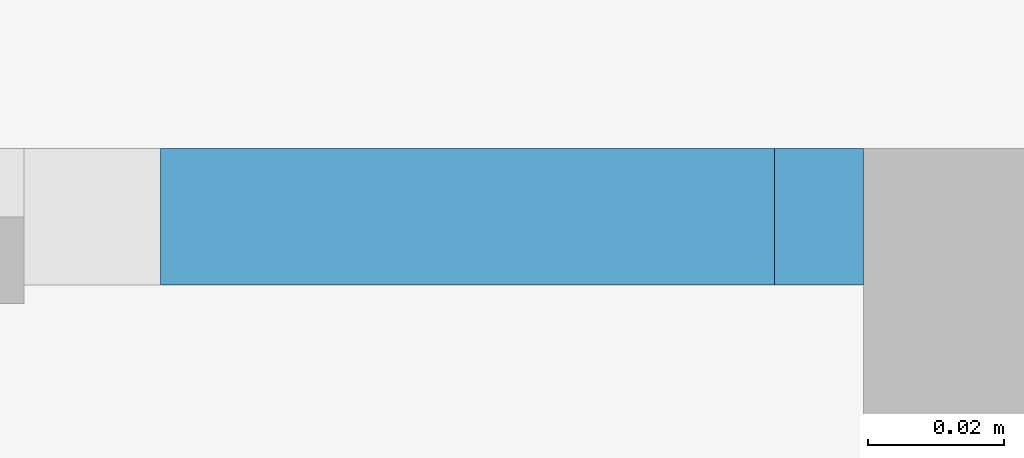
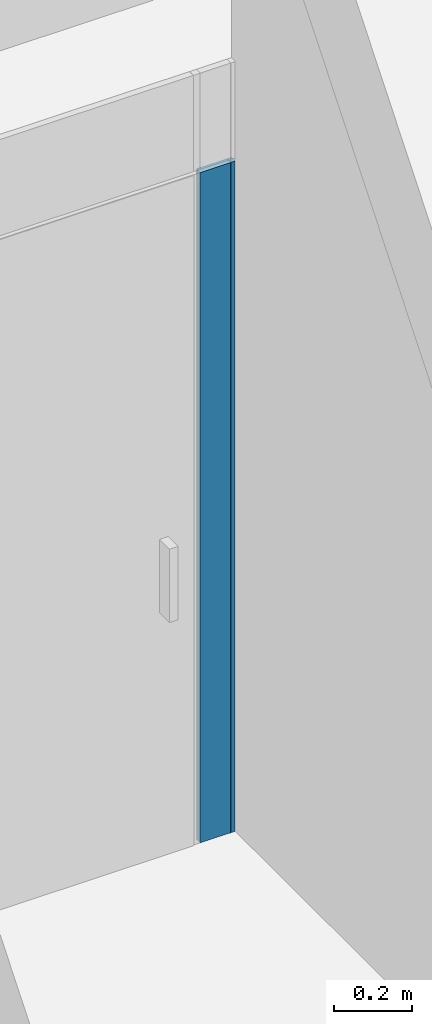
# One storey, part 19 of 66: 2 plates, 1 element without a shape of its own.
"""IFC2X3 building model written with IfcOpenShell, lengths in millimetres."""

from ifc_helpers import new_model, entity, si_unit, converted_unit, derived_unit, direction, frame, origin, origin_2d_with_axis, place, context, subcontext, project, spatial, rectangle, extrude, source, transform, mapped, material, layer, layer_set, layer_usage, type_object, type_shapes, element, aggregate, save


model = new_model("IFC2X3")

# Units and contexts
model_context = context("Model", 3, precision=0.01, world=origin(), true_north=direction((6.12303176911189e-17, 1.0)))
body_context = subcontext(model_context, "Body", "Model", "MODEL_VIEW")
ifc_project = project(units=[si_unit("LENGTHUNIT", "METRE", prefix="MILLI"), si_unit("AREAUNIT", "SQUARE_METRE"), si_unit("VOLUMEUNIT", "CUBIC_METRE"), converted_unit("PLANEANGLEUNIT", "DEGREE", entity("IfcRatioMeasure", 0.0174532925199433), si_unit("PLANEANGLEUNIT", "RADIAN"), dimensions=[0, 0, 0, 0, 0, 0, 0]), si_unit("MASSUNIT", "GRAM", prefix="KILO"), derived_unit("MASSDENSITYUNIT", [(si_unit("MASSUNIT", "GRAM", prefix="KILO"), 1), (si_unit("LENGTHUNIT", "METRE"), -3)]), si_unit("TIMEUNIT", "SECOND"), si_unit("FREQUENCYUNIT", "HERTZ"), si_unit("THERMODYNAMICTEMPERATUREUNIT", "DEGREE_CELSIUS"), derived_unit("THERMALTRANSMITTANCEUNIT", [(si_unit("MASSUNIT", "GRAM", prefix="KILO"), 1), (si_unit("THERMODYNAMICTEMPERATUREUNIT", "KELVIN"), -1), (si_unit("TIMEUNIT", "SECOND"), -3)]), derived_unit("VOLUMETRICFLOWRATEUNIT", [(si_unit("LENGTHUNIT", "METRE"), 3), (si_unit("TIMEUNIT", "SECOND"), -1)]), si_unit("ELECTRICCURRENTUNIT", "AMPERE"), si_unit("ELECTRICVOLTAGEUNIT", "VOLT"), si_unit("POWERUNIT", "WATT"), si_unit("FORCEUNIT", "NEWTON", prefix="KILO"), si_unit("ILLUMINANCEUNIT", "LUX"), si_unit("LUMINOUSFLUXUNIT", "LUMEN"), si_unit("LUMINOUSINTENSITYUNIT", "CANDELA"), derived_unit("USERDEFINED", [(si_unit("MASSUNIT", "GRAM", prefix="KILO"), -1), (si_unit("LENGTHUNIT", "METRE"), -2), (si_unit("TIMEUNIT", "SECOND"), 3), (si_unit("LUMINOUSFLUXUNIT", "LUMEN"), 1)]), derived_unit("LINEARVELOCITYUNIT", [(si_unit("LENGTHUNIT", "METRE"), 1), (si_unit("TIMEUNIT", "SECOND"), -1)]), si_unit("PRESSUREUNIT", "PASCAL"), derived_unit("USERDEFINED", [(si_unit("LENGTHUNIT", "METRE"), -2), (si_unit("MASSUNIT", "GRAM", prefix="KILO"), 1), (si_unit("TIMEUNIT", "SECOND"), -2)])], contexts=[model_context])

# Site, building, storey
site_placement = place(None, frame((-151.875543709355, 2715.0, 0.0)))
site = spatial("IfcSite", under=ifc_project, at=site_placement, Name="Surface", CompositionType="ELEMENT")
building_placement = place(site_placement, origin())
building = spatial("IfcBuilding", under=site, at=building_placement, CompositionType="ELEMENT")
storey_placement = place(building_placement, frame((0.0, 0.0, 3350.0)))
storey = spatial("IfcBuildingStorey", under=building, at=storey_placement, Name="2 korrus", CompositionType="ELEMENT", Elevation=3350.00000000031)

# Curtain wall, plates
curtain_wall_type = type_object("IfcCurtainWallType", Name="Curtain Wall:Klaassein KLS-10", PredefinedType="NOTDEFINED")
curtain_wall_placement = place(storey_placement, frame((0.0, 0.0, -3350.0)))
curtain_wall = element("IfcCurtainWall", 1, at=curtain_wall_placement, inside=storey, type_object=curtain_wall_type, Name="Curtain Wall:Klaassein KLS-10", ObjectType="Curtain Wall:Klaassein KLS-10")
ifc_material = material(Name="<Unnamed>")
ifc_layer = layer(ifc_material, 20.0)
ifc_layer_set = layer_set([ifc_layer], Name="Curtain Wall:Klaassein KLS-01")
ifc_layer_usage_1 = layer_usage(ifc_layer_set, "AXIS3", "POSITIVE", 0.0)
plate_type_1 = type_object("IfcPlateType", Name="Glazed", PredefinedType="CURTAIN_PANEL", material=ifc_layer_set)
shared_shape_1 = source(origin(), body_context, "Body", "SweptSolid", [
    extrude(rectangle(XDim=20.0, YDim=89.999999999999, at=origin_2d_with_axis()), frame((0.0, 0.0, 0.0), z_axis=(0.0, 0.0, 1.0), x_axis=(0.0, 1.0, 0.0)), (0.0, 0.0, 1.0), 2090.0),
])
type_shapes(plate_type_1, [shared_shape_1])
plate_1_placement = place(curtain_wall_placement, frame((6907.81503480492, 8850.0, 3350.0), z_axis=(0.0, 0.0, 1.0), x_axis=(-1.0, 0.0, 0.0)))
plate_1 = element("IfcPlate", 2, at=plate_1_placement, type_object=plate_type_1, material=ifc_layer_usage_1, Name="System Panel:Glazed", ObjectType="Glazed", context=body_context, shape_type="MappedRepresentation", body=[
    mapped(shared_shape_1, transform((0.0, 0.0, 0.0), scale=1.0)),
])
ifc_layer_usage_2 = layer_usage(ifc_layer_set, "AXIS3", "POSITIVE", 0.0)
plate_type_2 = type_object("IfcPlateType", Name="Glazed", PredefinedType="CURTAIN_PANEL", material=ifc_layer_set)
shared_shape_2 = source(origin(), body_context, "Body", "SweptSolid", [
    extrude(rectangle(XDim=20.0, YDim=13.0094386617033, at=origin_2d_with_axis()), frame((0.0, 0.0, 0.0), z_axis=(0.0, 0.0, 1.0), x_axis=(0.0, 1.0, 0.0)), (0.0, 0.0, 1.0), 2090.0),
])
type_shapes(plate_type_2, [shared_shape_2])
plate_2_placement = place(curtain_wall_placement, frame((6959.31975413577, 8850.0, 3350.0), z_axis=(0.0, 0.0, 1.0), x_axis=(-1.0, 0.0, 0.0)))
plate_2 = element("IfcPlate", 3, at=plate_2_placement, type_object=plate_type_2, material=ifc_layer_usage_2, Name="System Panel:Glazed", ObjectType="Glazed", context=body_context, shape_type="MappedRepresentation", body=[
    mapped(shared_shape_2, transform((0.0, 0.0, 0.0), scale=1.0)),
])
aggregate(curtain_wall, [plate_2, plate_1])

save(model, "model.ifc")
